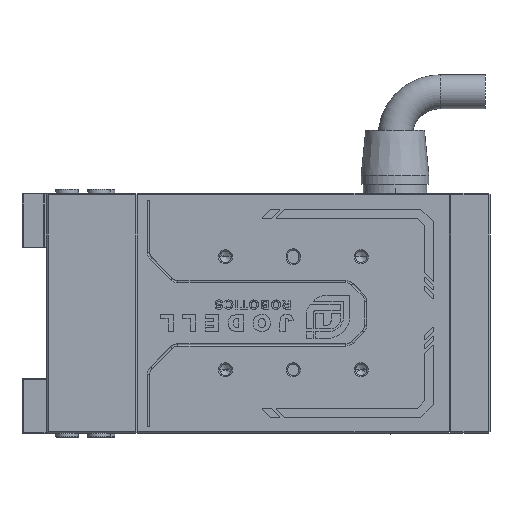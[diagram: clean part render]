
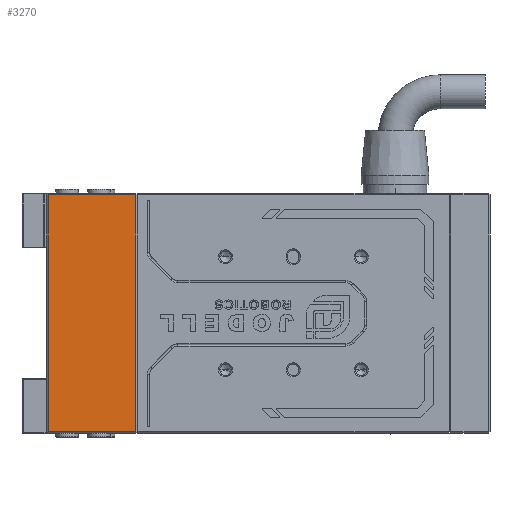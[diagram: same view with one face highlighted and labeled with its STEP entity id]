
A CAD part, left-side view. The second image highlights one B-rep face of the part: STEP entity #3270.
In plain terms, the highlighted planar face has unit normal (-1, 0, 0).
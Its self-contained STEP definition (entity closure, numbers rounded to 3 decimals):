
#620 = LINE ( 'NONE', #24631, #106080 ) ;
#1817 = CARTESIAN_POINT ( 'NONE',  ( -14., 0.3, 26.2 ) ) ;
#2515 = PLANE ( 'NONE',  #96630 ) ;
#3146 = DIRECTION ( 'NONE',  ( 0., 0., 1. ) ) ;
#3256 = DIRECTION ( 'NONE',  ( 0., 0., -1. ) ) ;
#3270 = ADVANCED_FACE ( 'NONE', ( #13256 ), #2515, .F. ) ;
#5422 = LINE ( 'NONE', #64657, #61328 ) ;
#12711 = EDGE_CURVE ( 'NONE', #43420, #57244, #620, .T. ) ;
#13256 = FACE_OUTER_BOUND ( 'NONE', #47932, .T. ) ;
#13778 = ORIENTED_EDGE ( 'NONE', *, *, #21838, .T. ) ;
#15635 = DIRECTION ( 'NONE',  ( 0., 1., 0. ) ) ;
#21838 = EDGE_CURVE ( 'NONE', #127291, #103999, #72831, .T. ) ;
#22330 = DIRECTION ( 'NONE',  ( 0., -1., 0. ) ) ;
#23381 = ORIENTED_EDGE ( 'NONE', *, *, #113217, .T. ) ;
#24631 = CARTESIAN_POINT ( 'NONE',  ( -14., 19.7, 26.5 ) ) ;
#34086 = CARTESIAN_POINT ( 'NONE',  ( -14., 0.3, -26.2 ) ) ;
#36933 = LINE ( 'NONE', #81151, #94755 ) ;
#43420 = VERTEX_POINT ( 'NONE', #118230 ) ;
#47932 = EDGE_LOOP ( 'NONE', ( #23381, #131773, #98543, #13778 ) ) ;
#57155 = DIRECTION ( 'NONE',  ( 1., 0., 0. ) ) ;
#57244 = VERTEX_POINT ( 'NONE', #129987 ) ;
#61328 = VECTOR ( 'NONE', #22330, 1000. ) ;
#64657 = CARTESIAN_POINT ( 'NONE',  ( -14., 0., -26.2 ) ) ;
#69396 = VECTOR ( 'NONE', #3146, 1000. ) ;
#72831 = LINE ( 'NONE', #133762, #69396 ) ;
#81151 = CARTESIAN_POINT ( 'NONE',  ( -14., 0., 26.2 ) ) ;
#94755 = VECTOR ( 'NONE', #15635, 1000. ) ;
#96630 = AXIS2_PLACEMENT_3D ( 'NONE', #122185, #57155, #133162 ) ;
#98543 = ORIENTED_EDGE ( 'NONE', *, *, #99719, .T. ) ;
#99719 = EDGE_CURVE ( 'NONE', #57244, #127291, #5422, .T. ) ;
#103999 = VERTEX_POINT ( 'NONE', #1817 ) ;
#106080 = VECTOR ( 'NONE', #3256, 1000. ) ;
#113217 = EDGE_CURVE ( 'NONE', #103999, #43420, #36933, .T. ) ;
#118230 = CARTESIAN_POINT ( 'NONE',  ( -14., 19.7, 26.2 ) ) ;
#122185 = CARTESIAN_POINT ( 'NONE',  ( -14., 0., 26.5 ) ) ;
#127291 = VERTEX_POINT ( 'NONE', #34086 ) ;
#129987 = CARTESIAN_POINT ( 'NONE',  ( -14., 19.7, -26.2 ) ) ;
#131773 = ORIENTED_EDGE ( 'NONE', *, *, #12711, .T. ) ;
#133162 = DIRECTION ( 'NONE',  ( 0., 0., -1. ) ) ;
#133762 = CARTESIAN_POINT ( 'NONE',  ( -14., 0.3, 26.5 ) ) ;
